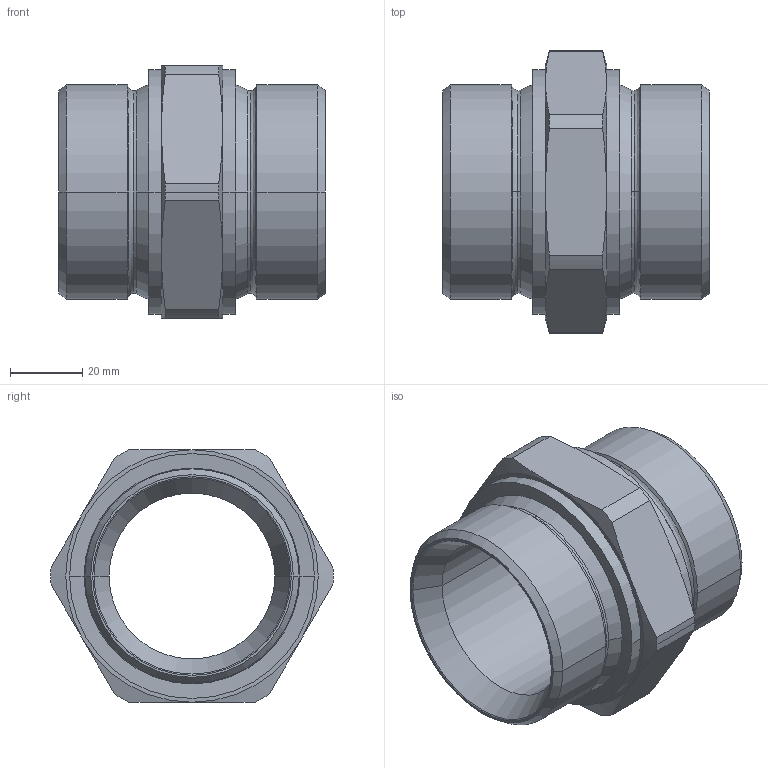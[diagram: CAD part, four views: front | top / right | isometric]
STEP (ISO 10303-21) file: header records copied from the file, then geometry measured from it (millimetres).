
FILE_DESCRIPTION((''),'2;1');
FILE_NAME('300531.stp','2006-09-11T08:15:52',(''),(''),'AutoCAD STEP 2000i','AutoCAD 2000i',', , ');
FILE_SCHEMA(('CONFIG_CONTROL_DESIGN'));
Length unit declared in the file: millimetre
Products named in the file (2): 300531.0; CHIAVE SMUSSATA#0
Assembly tree (1 placements, depth 2):
  300531.0
    CHIAVE SMUSSATA#0
Bounding box: 74 x 78.3 x 70 mm (x, y, z)
Volume: 104873.1 mm3; surface area: 29638.2 mm2
Topology: 1 solids, 1 shells, 72 faces, 170 edges, 102 vertices
Faces by surface type: cone 32, cylinder 18, plane 10, bspline 8, torus 4
Entity records: 2493 total; most frequent: CARTESIAN_POINT 746, DIRECTION 380, ORIENTED_EDGE 340, EDGE_CURVE 170, AXIS2_PLACEMENT_3D 168, VERTEX_POINT 102, CIRCLE 102, EDGE_LOOP 76
